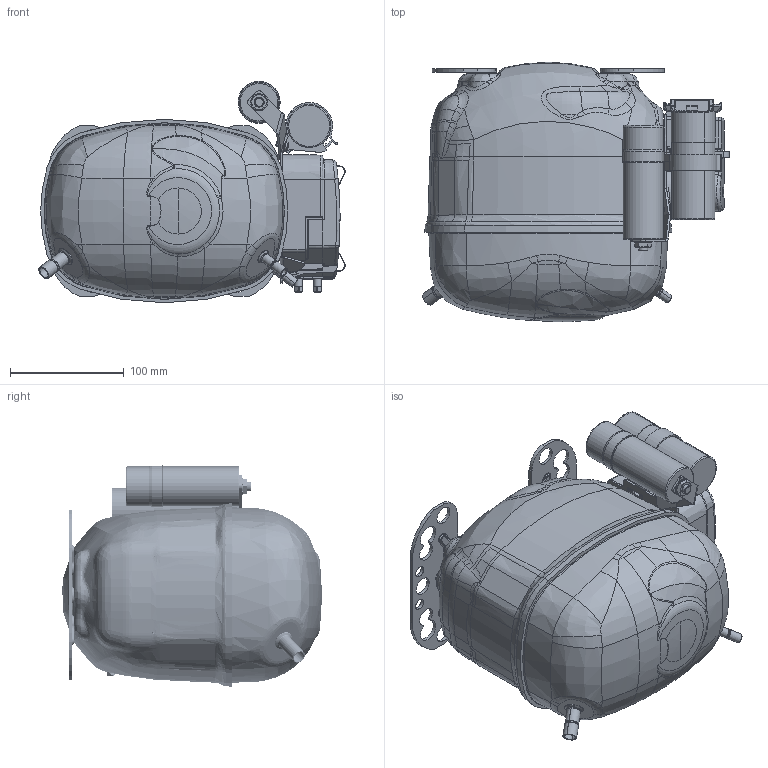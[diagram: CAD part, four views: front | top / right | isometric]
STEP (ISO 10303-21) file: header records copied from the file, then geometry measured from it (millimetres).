
FILE_DESCRIPTION((''),'2;1');
FILE_NAME('104H6163_SHELL_ASSEMBLY_ASM_ASM','2026-08-12T09:10:42',('dehc5875'),(''),'CREO PARAMETRIC BY PTC INC, 2022162','CREO PARAMETRIC BY PTC INC, 2022162','');
FILE_SCHEMA(('CONFIG_CONTROL_DESIGN'));
Length unit declared in the file: millimetre
Products named in the file (50): 104B1474_SCE_HOUSING_1_1; 104B0321_1_1; 104B0378_1_1; 104B0480_AF0_1_1; 104B1046_ASM_1_ASM_1_ASM; 104B0516_1_1; 104B0480_AF1_1_1; 104B1461_ASM_1_ASM_1_ASM; 104B0517_1_1; 104B0480_AF2_1_1; 104B1462_ASM_1_ASM_1_ASM; 103N0537_1_1; 104B0504_1_1; 117-3617_BODY_1_1; 117-3617_PINS_1_1; 117-3617_GLASS_FUSED_1_1; 117-3617_ASM_1_ASM_1_ASM; 104B0674_1_1; 104B0635_1_1; 104B0677_BENT_1_1; 104B0689_BENT_ASM_1_ASM_1_ASM; 104B1433_SCE_HOUSING_ASSY_ASM_1_ASM; 104B0694_SC_COVER_L12_5_R8_5_1_; 104B0647_AF1_1_1; 104B0681_AF5_1_1; 104B2517_1_1; 104B2515_1_1; 104B1459_SC_COVER_ASSY_ASM_1_AS_ASM; 663X1143_AF0_1_1; 663X1143_AF1_1_1; 104B0581_AF0_1_1; 117U1035_1_1; 117U0457_PREMOUNT_1_1; 117A4510_1_1; 117U1036_ASM_1_ASM_1_ASM; 103N0328_JOCH_1_1_1; 103N0444_SCHRAUBE_1_1_1; 103N0425_1_1; 103N1007_ASM_1_ASM_1_ASM; 117-0313_1_1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
Assembly tree (55 placements, depth 6):
  104H6163_SHELL_ASSEMBLY_ASM_ASM
    104H6163_SHELL_ASSEMBLY_ASM_1_ASM
      104H6163_COMPRESSOR_ASSEMBLY_AS_ASM
        104B1433_SCE_HOUSING_ASSY_ASM_1_ASM
          104B1474_SCE_HOUSING_1_1
          104B0321_1_1  x2
          104B1046_ASM_1_ASM_1_ASM
            104B0378_1_1
            104B0480_AF0_1_1
          104B1461_ASM_1_ASM_1_ASM
            104B0516_1_1
            104B0480_AF1_1_1
          104B1462_ASM_1_ASM_1_ASM
            104B0517_1_1
            104B0480_AF2_1_1
          103N0537_1_1
          104B0504_1_1
          117-3617_ASM_1_ASM_1_ASM
            117-3617_BODY_1_1
            117-3617_PINS_1_1  x3
            117-3617_GLASS_FUSED_1_1  x3
          104B0689_BENT_ASM_1_ASM_1_ASM
            104B0674_1_1
            104B0635_1_1
            104B0677_BENT_1_1
        104B1459_SC_COVER_ASSY_ASM_1_AS_ASM
          104B0694_SC_COVER_L12_5_R8_5_1_
          104B0647_AF1_1_1
          104B0681_AF5_1_1
          104B2517_1_1
          104B2515_1_1
        663X1143_AF0_1_1
        663X1143_AF1_1_1
        104B0581_AF0_1_1
        117U1036_ASM_1_ASM_1_ASM
          117U1035_1_1
          117U0457_PREMOUNT_1_1
          117A4510_1_1
        103N1007_ASM_1_ASM_1_ASM
          103N0328_JOCH_1_1_1
          103N0444_SCHRAUBE_1_1_1  x2
          103N0425_1_1
        117-0313_1_1
        117-0301_1_1
        RUN_CAP
        DIN_6798_A8_4_1_1
        ISO-4035_M8_1_1
        START_CAP_ASM
          START_CAP
          CLIP-PP-POM
Bounding box: 268.95 x 227.86 x 194.51 mm (x, y, z)
Volume: 814435.3 mm3; surface area: 501885.8 mm2
Topology: 43 solids, 43 shells, 4531 faces, 11703 edges, 7230 vertices
Faces by surface type: plane 1621, cylinder 1069, bspline 826, torus 415, cone 309, sphere 149, extrusion 124, revolution 18
Entity records: 191134 total; most frequent: CARTESIAN_POINT 91184, ORIENTED_EDGE 22032, DIRECTION 18873, EDGE_CURVE 11016, VERTEX_POINT 6871, AXIS2_PLACEMENT_3D 6854, VECTOR 5155, LINE 5031
